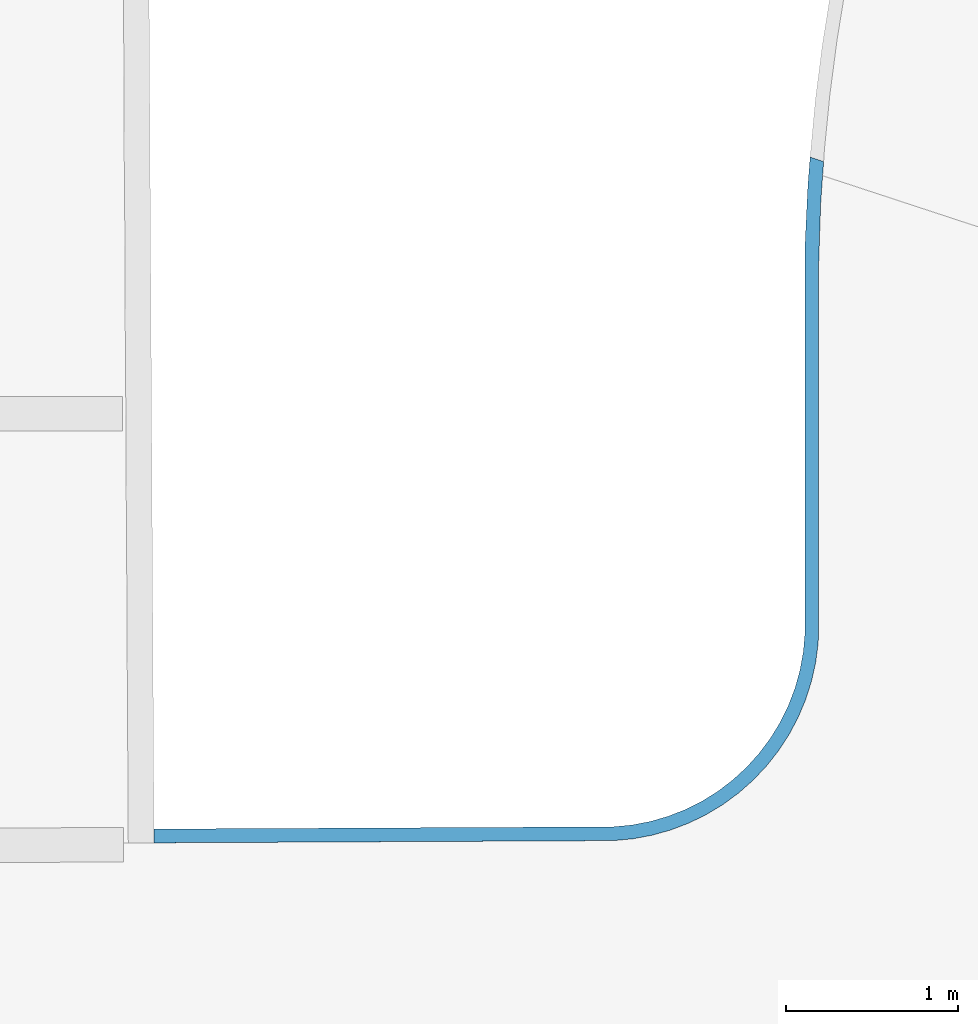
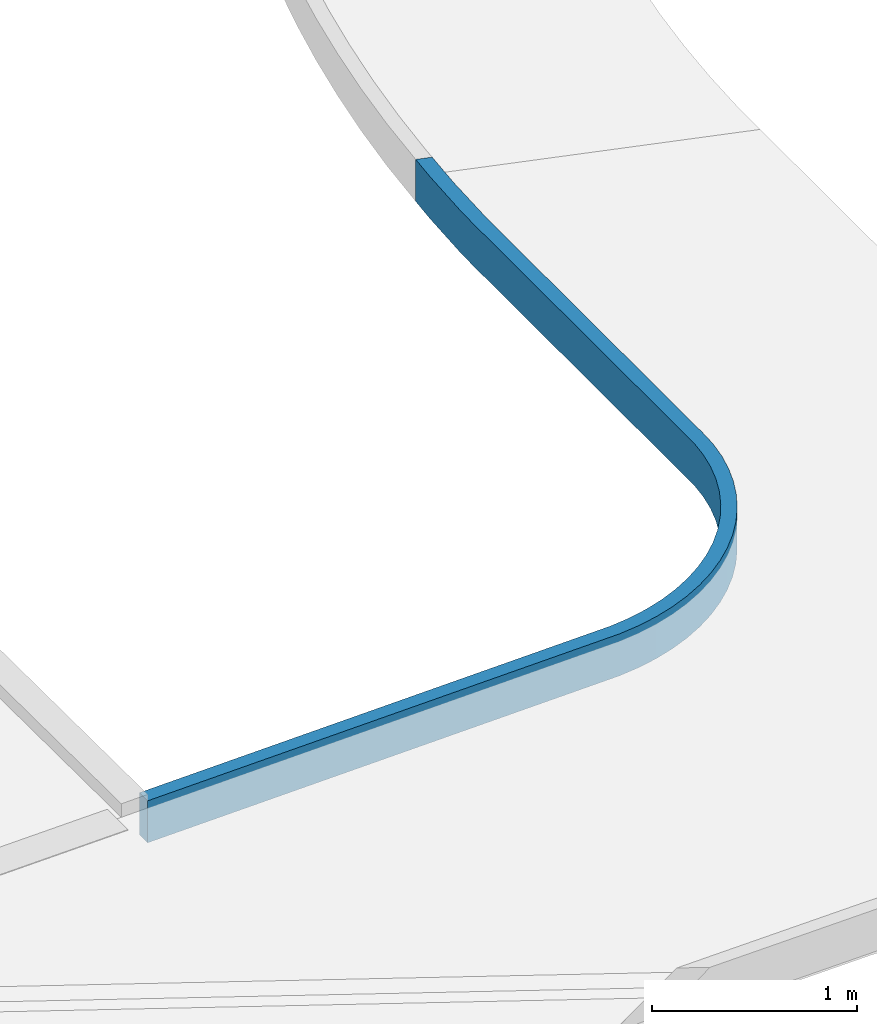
# One storey, part 5 of 8: 1 slab.
"""IFC4 building model written with IfcOpenShell, lengths in millimetres."""

from ifc_helpers import new_model, entity, si_unit, converted_unit, derived_unit, direction, frame, origin_with_axes, place, context, subcontext, project, spatial, polygons, material, type_object, element, save


model = new_model("IFC4")

# Units and contexts
model_context = context("Model", 3, precision=0.01, world=origin_with_axes(), true_north=direction((0.0, 1.0)))
body_context = subcontext(model_context, "Body", "Model", "MODEL_VIEW")
ifc_project = project(units=[si_unit("LENGTHUNIT", "METRE", prefix="MILLI"), si_unit("AREAUNIT", "SQUARE_METRE"), si_unit("VOLUMEUNIT", "CUBIC_METRE"), converted_unit("PLANEANGLEUNIT", "DEGREE", entity("IfcPlaneAngleMeasure", 0.0174532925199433), si_unit("PLANEANGLEUNIT", "RADIAN"), dimensions=[0, 0, 0, 0, 0, 0, 0]), converted_unit("TIMEUNIT", "Year", entity("IfcTimeMeasure", 31557600.0), si_unit("TIMEUNIT", "SECOND"), dimensions=[0, 0, 1, 0, 0, 0, 0]), si_unit("MASSUNIT", "GRAM", prefix="KILO"), si_unit("THERMODYNAMICTEMPERATUREUNIT", "DEGREE_CELSIUS"), si_unit("LUMINOUSINTENSITYUNIT", "LUMEN"), si_unit("ENERGYUNIT", "JOULE", prefix="MEGA"), derived_unit("THERMALCONDUCTANCEUNIT", [(si_unit("POWERUNIT", "WATT"), 1), (si_unit("LENGTHUNIT", "METRE"), -1), (si_unit("THERMODYNAMICTEMPERATUREUNIT", "KELVIN"), -1)]), derived_unit("SPECIFICHEATCAPACITYUNIT", [(si_unit("ENERGYUNIT", "JOULE"), 1), (si_unit("MASSUNIT", "GRAM", prefix="KILO"), -1), (si_unit("THERMODYNAMICTEMPERATUREUNIT", "KELVIN"), -1)]), derived_unit("MASSDENSITYUNIT", [(si_unit("MASSUNIT", "GRAM", prefix="KILO"), 1), (si_unit("VOLUMEUNIT", "CUBIC_METRE"), -1)])], contexts=[model_context])

# Site, building, storey
site_placement = place(None, origin_with_axes())
site = spatial("IfcSite", under=ifc_project, at=site_placement, Name="Exteriér", CompositionType="ELEMENT")
building_placement = place(site_placement, origin_with_axes())
building = spatial("IfcBuilding", under=site, at=building_placement, Name="Univerzitní lezecké centrum", CompositionType="ELEMENT")
storey_placement = place(building_placement, origin_with_axes())
storey = spatial("IfcBuildingStorey", under=building, at=storey_placement, Name="1.NP", CompositionType="ELEMENT", Elevation=0.0)

# Slab
ifc_material = material(Name="Beton prostý")
slab_type = type_object("IfcSlabType", Name="Beton prostý  250", PredefinedType="ROOF")
slab_placement = place(storey_placement, frame((-5910.148351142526, 8400.000000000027, -150.0), z_axis=(0.0, 0.0, 1.0), x_axis=(0.0, -1.0, 0.0)))
element("IfcSlab", 1, at=slab_placement, inside=storey, type_object=slab_type, material=ifc_material, PredefinedType="ROOF", context=body_context, shape_type="Tessellation", body=[
    polygons([(3288.878016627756, -5393.558322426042, 142.1788285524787), (3368.8813830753, -5394.051754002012, 142.1689599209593), (3356.126291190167, -2783.891687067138, 194.3721612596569), (3355.851966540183, -2727.754792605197, 195.4948991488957), (3345.24138109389, -2615.98216549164, 197.7303516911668), (3324.654289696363, -2505.610627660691, 199.9377824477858), (3294.256447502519, -2397.528825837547, 202.0994184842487), (3254.292600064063, -2292.606971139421, 204.1978555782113), (3205.084512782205, -2191.68983264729, 206.2161983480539), (3147.028380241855, -2095.589935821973, 208.1381962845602), (3080.591636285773, -2005.081020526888, 209.9483745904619), (3006.309190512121, -1920.891811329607, 211.6321587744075), (2924.779121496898, -1843.700150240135, 213.175991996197), (2836.65786141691, -1774.127539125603, 214.5674442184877), (2742.654910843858, -1712.734135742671, 215.7953122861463), (2643.527126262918, -1660.014243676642, 216.8497101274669), (2540.072626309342, -1616.392332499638, 217.722148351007), (2433.124365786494, -1582.219620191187, 218.405602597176), (2323.543429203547, -1557.771245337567, 218.8945700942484), (2212.212097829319, -1543.244051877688, 219.185113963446), (2106.141215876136, -1539.999999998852, 219.2499950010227), (-0.02059737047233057, -1539.999999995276, 219.2499950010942), (-337.9662928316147, -1528.718136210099, 219.4756322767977), (-498.5675325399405, -1517.596971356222, 219.6980555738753), (-580.7533099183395, -1511.445954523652, 219.8210759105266), (-606.4963706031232, -1589.805631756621, 218.2538823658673), (-445.5672037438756, -1602.550424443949, 217.9989865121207), (-123.0718360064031, -1618.017930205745, 217.6896363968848), (-0.8460738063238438, -1619.999999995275, 217.6499950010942), (2106.141215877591, -1619.99999999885, 217.6499950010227), (2154.515553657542, -1619.749639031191, 217.6550022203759), (2262.286278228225, -1629.205141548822, 217.4658921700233), (2368.72482818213, -1648.564136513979, 217.0787122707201), (2472.923107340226, -1677.661459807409, 216.4967658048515), (2573.992132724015, -1716.248863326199, 215.7250177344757), (2671.069619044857, -1763.997132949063, 214.7700523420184), (2763.327335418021, -1820.498897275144, 213.6400170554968), (2849.978171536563, -1885.272103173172, 212.3445529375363), (2930.282853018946, -1957.764128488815, 210.8947124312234), (3003.556248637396, -2037.356496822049, 209.3028650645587), (3069.173215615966, -2123.370154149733, 207.582591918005), (3126.573933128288, -2215.071262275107, 205.7485697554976), (3175.268678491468, -2311.677459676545, 203.8164458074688), (3214.842005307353, -2412.364536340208, 201.8027042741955), (3244.956287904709, -2516.27346562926, 199.7245256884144), (3265.354601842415, -2622.517733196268, 197.5996403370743), (3275.862915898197, -2730.190900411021, 195.4461769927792), (3276.127246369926, -2784.282619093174, 194.3643426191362), (3288.90244605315, -5393.558472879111, -107.8711694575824), (3368.905812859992, -5394.051904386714, -107.8810380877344), (3356.126291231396, -2778.892687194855, -55.57785374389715), (3355.877720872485, -2728.026091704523, -54.56052183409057), (3345.241381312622, -2615.982165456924, -52.31964330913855), (3324.654289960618, -2505.610627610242, -50.11221255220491), (3294.256447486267, -2397.528826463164, -47.95057652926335), (3254.292600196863, -2292.606971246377, -45.85213942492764), (3205.08451273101, -2191.689833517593, -43.83379667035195), (3147.028380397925, -2095.589935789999, -41.9117987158), (3080.591636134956, -2005.081020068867, -40.10162040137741), (3006.309190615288, -1920.891812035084, -38.41783624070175), (2924.779121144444, -1843.700149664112, -36.87400299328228), (2836.657861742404, -1774.127539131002, -35.48255078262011), (2742.6549107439, -1712.734135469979, -34.2546827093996), (2643.527126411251, -1660.014243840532, -33.20028487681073), (2540.072626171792, -1616.392332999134, -32.3278466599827), (2433.124365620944, -1582.219619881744, -31.64439239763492), (2323.543428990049, -1557.771245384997, -31.15542490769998), (2212.212097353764, -1543.244051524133, -30.86488103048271), (2106.1412157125, -1540.000000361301, -30.80000000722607), (-0.02059757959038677, -1540.000000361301, -30.80000000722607), (-337.9662926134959, -1528.718136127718, -30.57436272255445), (-498.567532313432, -1517.596971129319, -30.35193942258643), (-580.7533100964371, -1511.44595413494, -30.22891908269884), (-606.4963708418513, -1589.805631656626, -31.79611263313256), (-445.5672041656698, -1602.550424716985, -32.05100849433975), (-123.0718358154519, -1618.017930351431, -32.36035860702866), (-0.846073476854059, -1620.000000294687, -32.40000000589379), (2106.141215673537, -1620.000000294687, -32.40000000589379), (2154.515553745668, -1619.749639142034, -32.39499278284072), (2262.286278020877, -1629.205141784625, -32.58410283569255), (2368.724828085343, -1648.564136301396, -32.97128272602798), (2472.923107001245, -1677.661459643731, -33.55322919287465), (2573.992132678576, -1716.248863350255, -34.32497726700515), (2671.069618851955, -1763.997133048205, -35.27994266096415), (2763.327335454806, -1820.498897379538, -36.4099779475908), (2849.978171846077, -1885.272103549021, -37.7054420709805), (2930.2828528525, -1957.764128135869, -39.15528256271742), (3003.556248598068, -2037.356497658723, -40.74712995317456), (3069.173215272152, -2123.370153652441, -42.46740307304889), (3126.573932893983, -2215.07126232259, -44.30142524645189), (3175.268678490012, -2311.677460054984, -46.23354920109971), (3214.842005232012, -2412.364536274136, -48.24729072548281), (3244.956288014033, -2516.273465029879, -50.3254693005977), (3265.35460212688, -2622.517733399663, -52.45035466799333), (3275.888632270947, -2730.454402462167, -54.60908804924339), (3276.127246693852, -2779.283619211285, -55.58567238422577)], [[[1, 2, 3, 4, 5, 6, 7, 8, 9, 10, 11, 12, 13, 14, 15, 16, 17, 18, 19, 20, 21, 22, 23, 24, 25, 26, 27, 28, 29, 30, 31, 32, 33, 34, 35, 36, 37, 38, 39, 40, 41, 42, 43, 44, 45, 46, 47, 48]], [[2, 1, 49, 50]], [[3, 2, 50, 51]], [[4, 3, 51, 52]], [[5, 4, 52, 53]], [[6, 5, 53, 54]], [[7, 6, 54, 55]], [[8, 7, 55, 56]], [[9, 8, 56, 57]], [[10, 9, 57, 58]], [[11, 10, 58, 59]], [[12, 11, 59, 60]], [[13, 12, 60, 61]], [[14, 13, 61, 62]], [[15, 14, 62, 63]], [[16, 15, 63, 64]], [[17, 16, 64, 65]], [[18, 17, 65, 66]], [[19, 18, 66, 67]], [[20, 19, 67, 68]], [[21, 20, 68, 69]], [[22, 21, 69, 70]], [[23, 22, 70, 71]], [[24, 23, 71, 72]], [[25, 24, 72, 73]], [[26, 25, 73, 74]], [[27, 26, 74, 75]], [[28, 27, 75, 76]], [[29, 28, 76, 77]], [[30, 29, 77, 78]], [[31, 30, 78, 79]], [[32, 31, 79, 80]], [[33, 32, 80, 81]], [[34, 33, 81, 82]], [[35, 34, 82, 83]], [[36, 35, 83, 84]], [[37, 36, 84, 85]], [[38, 37, 85, 86]], [[39, 38, 86, 87]], [[40, 39, 87, 88]], [[41, 40, 88, 89]], [[42, 41, 89, 90]], [[43, 42, 90, 91]], [[44, 43, 91, 92]], [[45, 44, 92, 93]], [[46, 45, 93, 94]], [[47, 46, 94, 95]], [[48, 47, 95, 96]], [[1, 48, 96, 49]], [[50, 49, 96, 95, 94, 93, 92, 91, 90, 89, 88, 87, 86, 85, 84, 83, 82, 81, 80, 79, 78, 77, 76, 75, 74, 73, 72, 71, 70, 69, 68, 67, 66, 65, 64, 63, 62, 61, 60, 59, 58, 57, 56, 55, 54, 53, 52, 51]]], closed=True),
])

save(model, "model.ifc")
